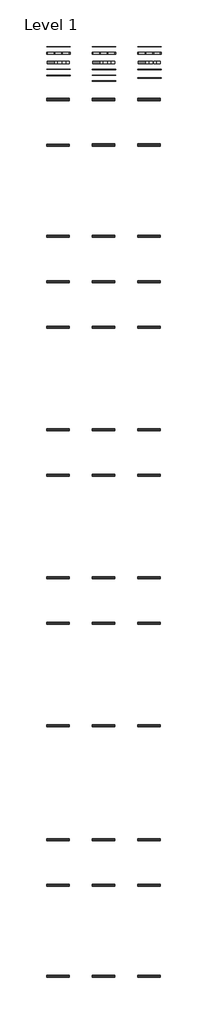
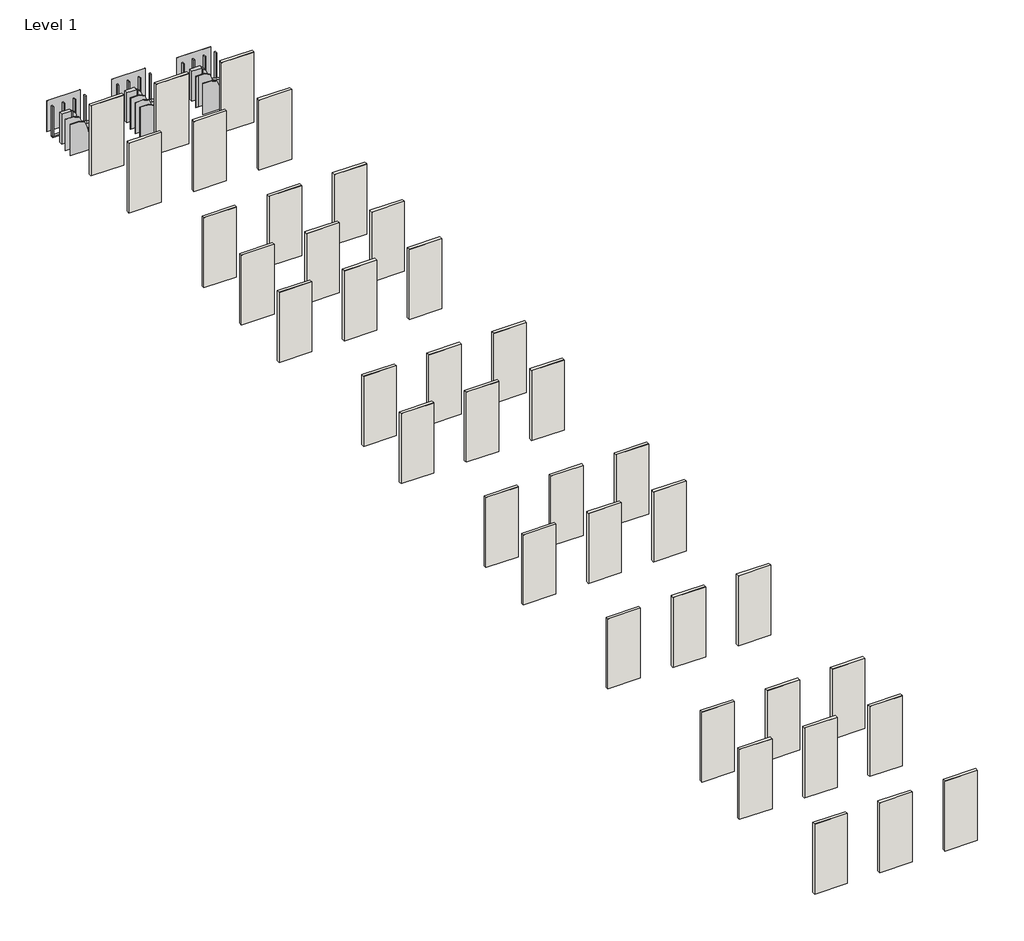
# One storey: 39 walls, 17 proxies.
"""IFC4 building model written with IfcOpenShell, lengths in millimetres."""

from ifc_helpers import new_model, si_unit, frame, origin, place, context, project, spatial, polyline, outline, extrude, transform, mapped, element, save
from components import drywall_drywall_9ad1a81a, insulation_insulation_886ea66a, insulation1_insulation_c7675874, insulation2_insulation_4921b148, siding_siding_018b6af7, siding1_siding_7341e546, wrb_wrb_ac3679c3, wrb1_wrb_f76ab0a9, wrb12_wrb_24edb861, wrb2_wrb_4205755c, wrb9_wrb_41caa409, wood_framing_wood_framing_a479036c, wood_framing1_wood_framing_6a745cfe, wood_framing2_wood_framing_f1f590b3

model = new_model("IFC4")

# Units and contexts
model_context = context("Model", 3, world=origin())
ifc_project = project(units=[si_unit("LENGTHUNIT", "METRE", prefix="MILLI")], contexts=[model_context])

# Site, building, storey
site = spatial("IfcSite", under=ifc_project)
building = spatial("IfcBuilding", under=site)
storey = spatial("IfcBuildingStorey", under=building, Name="Level 1", Elevation=0.0)

# Proxies
placement = place(None, origin())
drywall_drywall_shape = drywall_drywall_9ad1a81a(model_context)
element("IfcBuildingElementProxy", 1, Name="Drywall : Drywall", ObjectType="Drywall : Drywall", at=placement, inside=storey, context=model_context, shape_type="MappedRepresentation", body=[
    mapped(drywall_drywall_shape, transform((-5985.2651148, 30930.9655791, 0.0), x_axis=(1.0, 0.0, 0.0), y_axis=(0.0, 1.0, 0.0), z_axis=(0.0, 0.0, 1.0))),
])
element("IfcBuildingElementProxy", 2, Name="Drywall1 : Drywall", ObjectType="Drywall1 : Drywall", at=placement, inside=storey, context=model_context, shape_type="MappedRepresentation", body=[
    mapped(drywall_drywall_shape, transform((-3546.8651148, 30930.9655791, 0.0), x_axis=(1.0, 0.0, 0.0), y_axis=(0.0, 1.0, 0.0), z_axis=(0.0, 0.0, 1.0))),
])
element("IfcBuildingElementProxy", 3, Name="Drywall2 : Drywall", ObjectType="Drywall2 : Drywall", at=placement, inside=storey, context=model_context, shape_type="MappedRepresentation", body=[
    mapped(drywall_drywall_shape, transform((-1108.4651148, 30930.9655791, 0.0), x_axis=(1.0, 0.0, 0.0), y_axis=(0.0, 1.0, 0.0), z_axis=(0.0, 0.0, 1.0))),
])
insulation_insulation_shape = insulation_insulation_886ea66a(model_context)
element("IfcBuildingElementProxy", 4, Name="Insulation : Insulation", ObjectType="Insulation : Insulation", at=placement, inside=storey, context=model_context, shape_type="MappedRepresentation", body=[
    mapped(insulation_insulation_shape, transform((0.0, 0.0, 0.0), x_axis=(1.0, 0.0, 0.0), y_axis=(0.0, 1.0, 0.0), z_axis=(0.0, 0.0, 1.0))),
])
insulation1_insulation_shape = insulation1_insulation_c7675874(model_context)
element("IfcBuildingElementProxy", 5, Name="Insulation1 : Insulation", ObjectType="Insulation1 : Insulation", at=placement, inside=storey, context=model_context, shape_type="MappedRepresentation", body=[
    mapped(insulation1_insulation_shape, transform((0.0, 0.0, 0.0), x_axis=(1.0, 0.0, 0.0), y_axis=(0.0, 1.0, 0.0), z_axis=(0.0, 0.0, 1.0))),
])
insulation2_insulation_shape = insulation2_insulation_4921b148(model_context)
element("IfcBuildingElementProxy", 6, Name="Insulation2 : Insulation", ObjectType="Insulation2 : Insulation", at=placement, inside=storey, context=model_context, shape_type="MappedRepresentation", body=[
    mapped(insulation2_insulation_shape, transform((0.0, 0.0, 0.0), x_axis=(1.0, 0.0, 0.0), y_axis=(0.0, 1.0, 0.0), z_axis=(0.0, 0.0, 1.0))),
])
siding_siding_shape = siding_siding_018b6af7(model_context)
element("IfcBuildingElementProxy", 7, Name="Siding : Siding", ObjectType="Siding : Siding", at=placement, inside=storey, context=model_context, shape_type="MappedRepresentation", body=[
    mapped(siding_siding_shape, transform((0.0, 0.0, 0.0), x_axis=(1.0, 0.0, 0.0), y_axis=(0.0, 1.0, 0.0), z_axis=(0.0, 0.0, 1.0))),
])
siding1_siding_shape = siding1_siding_7341e546(model_context)
element("IfcBuildingElementProxy", 8, Name="Siding1 : Siding", ObjectType="Siding1 : Siding", at=placement, inside=storey, context=model_context, shape_type="MappedRepresentation", body=[
    mapped(siding1_siding_shape, transform((2438.4, 152.4, 0.0), x_axis=(1.0, 0.0, 0.0), y_axis=(0.0, 1.0, 0.0), z_axis=(0.0, 0.0, 1.0))),
])
element("IfcBuildingElementProxy", 9, Name="Siding2 : Siding", ObjectType="Siding2 : Siding", at=placement, inside=storey, context=model_context, shape_type="MappedRepresentation", body=[
    mapped(siding1_siding_shape, transform((0.0, 0.0, 0.0), x_axis=(1.0, 0.0, 0.0), y_axis=(0.0, 1.0, 0.0), z_axis=(0.0, 0.0, 1.0))),
])
wrb_wrb_shape = wrb_wrb_ac3679c3(model_context)
element("IfcBuildingElementProxy", 10, Name="WRB : WRB", ObjectType="WRB : WRB", at=placement, inside=storey, context=model_context, shape_type="MappedRepresentation", body=[
    mapped(wrb_wrb_shape, transform((-5985.2651148, 30930.9655791, 0.0), x_axis=(1.0, 0.0, 0.0), y_axis=(0.0, 1.0, 0.0), z_axis=(0.0, 0.0, 1.0))),
])
wrb1_wrb_shape = wrb1_wrb_f76ab0a9(model_context)
element("IfcBuildingElementProxy", 11, Name="WRB1 : WRB", ObjectType="WRB1 : WRB", at=placement, inside=storey, context=model_context, shape_type="MappedRepresentation", body=[
    mapped(wrb1_wrb_shape, transform((-5985.2651148, 30930.9655791, 0.0), x_axis=(1.0, 0.0, 0.0), y_axis=(0.0, 1.0, 0.0), z_axis=(0.0, 0.0, 1.0))),
])
wrb12_wrb_shape = wrb12_wrb_24edb861(model_context)
element("IfcBuildingElementProxy", 12, Name="WRB12 : WRB", ObjectType="WRB12 : WRB", at=placement, inside=storey, context=model_context, shape_type="MappedRepresentation", body=[
    mapped(wrb12_wrb_shape, transform((-5985.2651148, 30880.1655791, 0.0), x_axis=(1.0, 0.0, 0.0), y_axis=(0.0, 1.0, 0.0), z_axis=(0.0, 0.0, 1.0))),
])
wrb2_wrb_shape = wrb2_wrb_4205755c(model_context)
element("IfcBuildingElementProxy", 13, Name="WRB2 : WRB", ObjectType="WRB2 : WRB", at=placement, inside=storey, context=model_context, shape_type="MappedRepresentation", body=[
    mapped(wrb2_wrb_shape, transform((-5985.2651148, 30930.9655791, 0.0), x_axis=(1.0, 0.0, 0.0), y_axis=(0.0, 1.0, 0.0), z_axis=(0.0, 0.0, 1.0))),
])
wrb9_wrb_shape = wrb9_wrb_41caa409(model_context)
element("IfcBuildingElementProxy", 14, Name="WRB9 : WRB", ObjectType="WRB9 : WRB", at=placement, inside=storey, context=model_context, shape_type="MappedRepresentation", body=[
    mapped(wrb9_wrb_shape, transform((-5985.2651148, 30880.1655791, 0.0), x_axis=(1.0, 0.0, 0.0), y_axis=(0.0, 1.0, 0.0), z_axis=(0.0, 0.0, 1.0))),
])
wood_framing_wood_framing_shape = wood_framing_wood_framing_a479036c(model_context)
element("IfcBuildingElementProxy", 15, Name="Wood Framing : Wood Framing", ObjectType="Wood Framing : Wood Framing", at=placement, inside=storey, context=model_context, shape_type="MappedRepresentation", body=[
    mapped(wood_framing_wood_framing_shape, transform((0.0, 0.0, 0.0), x_axis=(1.0, 0.0, 0.0), y_axis=(0.0, 1.0, 0.0), z_axis=(0.0, 0.0, 1.0))),
])
wood_framing1_wood_framing_shape = wood_framing1_wood_framing_6a745cfe(model_context)
element("IfcBuildingElementProxy", 16, Name="Wood Framing1 : Wood Framing", ObjectType="Wood Framing1 : Wood Framing", at=placement, inside=storey, context=model_context, shape_type="MappedRepresentation", body=[
    mapped(wood_framing1_wood_framing_shape, transform((0.0, 0.0, 0.0), x_axis=(1.0, 0.0, 0.0), y_axis=(0.0, 1.0, 0.0), z_axis=(0.0, 0.0, 1.0))),
])
wood_framing2_wood_framing_shape = wood_framing2_wood_framing_f1f590b3(model_context)
element("IfcBuildingElementProxy", 17, Name="Wood Framing2 : Wood Framing", ObjectType="Wood Framing2 : Wood Framing", at=placement, inside=storey, context=model_context, shape_type="MappedRepresentation", body=[
    mapped(wood_framing2_wood_framing_shape, transform((0.0, 0.0, 0.0), x_axis=(1.0, 0.0, 0.0), y_axis=(0.0, 1.0, 0.0), z_axis=(0.0, 0.0, 1.0))),
])

# Walls
element("IfcWall", 18, ObjectType="Exterior - 2x4 Direct to Stud - LP SmartSide Panel Siding - 38 Series Cedar Texture Panel (Strand) - 8\" O.C.", at=placement, inside=storey, context=model_context, shape_type="SweptSolid", body=[
    extrude(outline(polyline([(32309.1411435, 0.0), (32309.1411435, 2771.775), (32317.1421435, 2771.775), (32418.7421435, 2771.775), (32418.7421435, 0.0), (32317.1421435, 0.0), (32309.1411435, 0.0)])), frame((-5100.4179718, 0.0, 0.0), z_axis=(1.0, 0.0, 0.0), x_axis=(0.0, 1.0, 0.0)), (0.0, 0.0, 1.0), 1219.2),
])
element("IfcWall", 19, ObjectType="Exterior - 2x4 w/WSP - LP SmartSide Panel Siding - 38 Series Cedar Texture Panel (Strand) - 8\" O.C.", at=placement, inside=storey, context=model_context, shape_type="SweptSolid", body=[
    extrude(outline(polyline([(32303.5848935, 0.0), (32303.5848935, 2771.775), (32311.5858935, 2771.775), (32424.2983935, 2771.775), (32424.2983935, 0.0), (32311.5858935, 0.0), (32303.5848935, 0.0)])), frame((-2662.0179718, 0.0, 0.0), z_axis=(1.0, 0.0, 0.0), x_axis=(0.0, 1.0, 0.0)), (0.0, 0.0, 1.0), 1219.2),
])
element("IfcWall", 20, ObjectType="Exterior - 2x4 Direct to Stud - LP SmartSide Panel Siding - 38 Series Cedar Texture Panel (Strand) - No Groove", at=placement, inside=storey, context=model_context, shape_type="SweptSolid", body=[
    extrude(outline(polyline([(29870.7411435, 0.0), (29870.7411435, 2771.775), (29878.7421435, 2771.775), (29980.3421435, 2771.775), (29980.3421435, 0.0), (29878.7421435, 0.0), (29870.7411435, 0.0)])), frame((-5100.4179718, 0.0, 0.0), z_axis=(1.0, 0.0, 0.0), x_axis=(0.0, 1.0, 0.0)), (0.0, 0.0, 1.0), 1219.2),
])
element("IfcWall", 21, ObjectType="Exterior - 2x4 w/WSP - LP SmartSide Panel Siding - 38 Series Cedar Texture Panel (Strand) - No Groove", at=placement, inside=storey, context=model_context, shape_type="SweptSolid", body=[
    extrude(outline(polyline([(29865.1848935, 0.0), (29865.1848935, 2771.775), (29873.1858935, 2771.775), (29985.8983935, 2771.775), (29985.8983935, 0.0), (29873.1858935, 0.0), (29865.1848935, 0.0)])), frame((-2662.0179718, 0.0, 0.0), z_axis=(1.0, 0.0, 0.0), x_axis=(0.0, 1.0, 0.0)), (0.0, 0.0, 1.0), 1219.2),
])
element("IfcWall", 22, ObjectType="Exterior - 2x4 Direct to Stud - LP SmartSide Panel Siding - 76 Series Cedar Texture Panel (Strand) - 4\" O.C.", at=placement, inside=storey, context=model_context, shape_type="SweptSolid", body=[
    extrude(outline(polyline([(24993.1791435, 0.0), (24993.1791435, 2771.775), (25002.7041435, 2771.775), (25104.3041435, 2771.775), (25104.3041435, 0.0), (25002.7041435, 0.0), (24993.1791435, 0.0)])), frame((-5100.4179718, 0.0, 0.0), z_axis=(1.0, 0.0, 0.0), x_axis=(0.0, 1.0, 0.0)), (0.0, 0.0, 1.0), 1219.2),
])
element("IfcWall", 23, ObjectType="Exterior - 2x4 w/WSP - LP SmartSide Panel Siding - 76 Series Cedar Texture Panel (Strand) - 4\" O.C.", at=placement, inside=storey, context=model_context, shape_type="SweptSolid", body=[
    extrude(outline(polyline([(24987.6228935, 0.0), (24987.6228935, 2771.775), (24997.1478935, 2771.775), (25109.8603935, 2771.775), (25109.8603935, 0.0), (24997.1478935, 0.0), (24987.6228935, 0.0)])), frame((-2662.0179718, 0.0, 0.0), z_axis=(1.0, 0.0, 0.0), x_axis=(0.0, 1.0, 0.0)), (0.0, 0.0, 1.0), 1219.2),
])
element("IfcWall", 24, ObjectType="Exterior - 2x4 Direct to Stud - LP SmartSide Panel Siding - 76 Series Cedar Texture Panel (Strand) - 8\" O.C.", at=placement, inside=storey, context=model_context, shape_type="SweptSolid", body=[
    extrude(outline(polyline([(22554.7791435, 0.0), (22554.7791435, 2771.775), (22564.3041435, 2771.775), (22665.9041435, 2771.775), (22665.9041435, 0.0), (22564.3041435, 0.0), (22554.7791435, 0.0)])), frame((-5100.4179718, 0.0, 0.0), z_axis=(1.0, 0.0, 0.0), x_axis=(0.0, 1.0, 0.0)), (0.0, 0.0, 1.0), 1219.2),
])
element("IfcWall", 25, ObjectType="Exterior - 2x4 w/WSP - LP SmartSide Panel Siding - 76 Series Cedar Texture Panel (Strand) - 8\" O.C.", at=placement, inside=storey, context=model_context, shape_type="SweptSolid", body=[
    extrude(outline(polyline([(22549.2228935, 0.0), (22549.2228935, 2771.775), (22558.7478935, 2771.775), (22671.4603935, 2771.775), (22671.4603935, 0.0), (22558.7478935, 0.0), (22549.2228935, 0.0)])), frame((-2662.0179718, 0.0, 0.0), z_axis=(1.0, 0.0, 0.0), x_axis=(0.0, 1.0, 0.0)), (0.0, 0.0, 1.0), 1219.2),
])
element("IfcWall", 26, ObjectType="Exterior - 2x4 Direct to Stud - LP SmartSide Panel Siding - 76 Series Cedar Texture Panel (Strand) - No Groove", at=placement, inside=storey, context=model_context, shape_type="SweptSolid", body=[
    extrude(outline(polyline([(20116.3791435, 0.0), (20116.3791435, 2771.775), (20125.9041435, 2771.775), (20227.5041435, 2771.775), (20227.5041435, 0.0), (20125.9041435, 0.0), (20116.3791435, 0.0)])), frame((-5100.4179718, 0.0, 0.0), z_axis=(1.0, 0.0, 0.0), x_axis=(0.0, 1.0, 0.0)), (0.0, 0.0, 1.0), 1219.2),
])
element("IfcWall", 27, ObjectType="Exterior - 2x4 w/WSP - LP SmartSide Panel Siding - 76 Series Cedar Texture Panel (Strand) - No Groove", at=placement, inside=storey, context=model_context, shape_type="SweptSolid", body=[
    extrude(outline(polyline([(20110.8228935, 0.0), (20110.8228935, 2771.775), (20120.3478935, 2771.775), (20233.0603935, 2771.775), (20233.0603935, 0.0), (20120.3478935, 0.0), (20110.8228935, 0.0)])), frame((-2662.0179718, 0.0, 0.0), z_axis=(1.0, 0.0, 0.0), x_axis=(0.0, 1.0, 0.0)), (0.0, 0.0, 1.0), 1219.2),
])
element("IfcWall", 28, ObjectType="Exterior - 2x4 Direct to Stud - LP SmartSide Panel Siding - 190 Series Cedar Texture Panel (Strand) - 8\" O.C.", at=placement, inside=storey, context=model_context, shape_type="SweptSolid", body=[
    extrude(outline(polyline([(14628.0106435, 0.0), (14628.0106435, 2771.775), (14641.4726435, 2771.775), (14743.0726435, 2771.775), (14743.0726435, 0.0), (14641.4726435, 0.0), (14628.0106435, 0.0)])), frame((-5100.4179718, 0.0, 0.0), z_axis=(1.0, 0.0, 0.0), x_axis=(0.0, 1.0, 0.0)), (0.0, 0.0, 1.0), 1219.2),
])
element("IfcWall", 29, ObjectType="Exterior - 2x4 w/WSP - LP SmartSide Panel Siding - 190 Series Cedar Texture Panel (Strand) - 8\" O.C.", at=placement, inside=storey, context=model_context, shape_type="SweptSolid", body=[
    extrude(outline(polyline([(14622.4543935, 0.0), (14622.4543935, 2771.775), (14635.9163935, 2771.775), (14748.6288935, 2771.775), (14748.6288935, 0.0), (14635.9163935, 0.0), (14622.4543935, 0.0)])), frame((-2662.0179718, 0.0, 0.0), z_axis=(1.0, 0.0, 0.0), x_axis=(0.0, 1.0, 0.0)), (0.0, 0.0, 1.0), 1219.2),
])
element("IfcWall", 30, ObjectType="Exterior - 2x4 Direct to Stud - LP SmartSide Panel Siding - 190 Series Cedar Texture Panel (Strand) - No Groove", at=placement, inside=storey, context=model_context, shape_type="SweptSolid", body=[
    extrude(outline(polyline([(12189.6106435, 0.0), (12189.6106435, 2771.775), (12203.0726435, 2771.775), (12304.6726435, 2771.775), (12304.6726435, 0.0), (12203.0726435, 0.0), (12189.6106435, 0.0)])), frame((-5100.4179718, 0.0, 0.0), z_axis=(1.0, 0.0, 0.0), x_axis=(0.0, 1.0, 0.0)), (0.0, 0.0, 1.0), 1219.2),
])
element("IfcWall", 31, ObjectType="Exterior - 2x4 w/WSP - LP SmartSide Panel Siding - 190 Series Cedar Texture Panel (Strand) - No Groove", at=placement, inside=storey, context=model_context, shape_type="SweptSolid", body=[
    extrude(outline(polyline([(12184.0543935, 0.0), (12184.0543935, 2771.775), (12197.5163935, 2771.775), (12310.2288935, 2771.775), (12310.2288935, 0.0), (12197.5163935, 0.0), (12184.0543935, 0.0)])), frame((-2662.0179718, 0.0, 0.0), z_axis=(1.0, 0.0, 0.0), x_axis=(0.0, 1.0, 0.0)), (0.0, 0.0, 1.0), 1219.2),
])
element("IfcWall", 32, ObjectType="Exterior - 2x4 Direct to Stud - LP SmartSide Panel Siding - 76 Series Cedar Texture Panel (Fiber) - 8\" O.C.", at=placement, inside=storey, context=model_context, shape_type="SweptSolid", body=[
    extrude(outline(polyline([(6705.1791435, 0.0), (6705.1791435, 2771.775), (6714.7041435, 2771.775), (6816.3041435, 2771.775), (6816.3041435, 0.0), (6714.7041435, 0.0), (6705.1791435, 0.0)])), frame((-5100.4179718, 0.0, 0.0), z_axis=(1.0, 0.0, 0.0), x_axis=(0.0, 1.0, 0.0)), (0.0, 0.0, 1.0), 1219.2),
])
element("IfcWall", 33, ObjectType="Exterior - 2x4 w/WSP - LP SmartSide Panel Siding - 76 Series Cedar Texture Panel (Fiber) - 8\" O.C.", at=placement, inside=storey, context=model_context, shape_type="SweptSolid", body=[
    extrude(outline(polyline([(6699.6228935, 0.0), (6699.6228935, 2771.775), (6709.1478935, 2771.775), (6821.8603935, 2771.775), (6821.8603935, 0.0), (6709.1478935, 0.0), (6699.6228935, 0.0)])), frame((-2662.0179718, 0.0, 0.0), z_axis=(1.0, 0.0, 0.0), x_axis=(0.0, 1.0, 0.0)), (0.0, 0.0, 1.0), 1219.2),
])
element("IfcWall", 34, ObjectType="Exterior - 2x4 Direct to Stud - LP SmartSide Panel Siding - 76 Series Cedar Texture Panel (Fiber) - Square Edge", at=placement, inside=storey, context=model_context, shape_type="SweptSolid", body=[
    extrude(outline(polyline([(4266.7791435, 0.0), (4266.7791435, 2771.775), (4276.3041435, 2771.775), (4377.9041435, 2771.775), (4377.9041435, 0.0), (4276.3041435, 0.0), (4266.7791435, 0.0)])), frame((-5100.4179718, 0.0, 0.0), z_axis=(1.0, 0.0, 0.0), x_axis=(0.0, 1.0, 0.0)), (0.0, 0.0, 1.0), 1219.2),
])
element("IfcWall", 35, ObjectType="Exterior - 2x4 w/WSP - LP SmartSide Panel Siding - 76 Series Cedar Texture Panel (Fiber) - Square Edge", at=placement, inside=storey, context=model_context, shape_type="SweptSolid", body=[
    extrude(outline(polyline([(4261.2228935, 0.0), (4261.2228935, 2771.775), (4270.7478935, 2771.775), (4383.4603935, 2771.775), (4383.4603935, 0.0), (4270.7478935, 0.0), (4261.2228935, 0.0)])), frame((-2662.0179718, 0.0, 0.0), z_axis=(1.0, 0.0, 0.0), x_axis=(0.0, 1.0, 0.0)), (0.0, 0.0, 1.0), 1219.2),
])
element("IfcWall", 36, ObjectType="Exterior - 2x4 Direct to Stud - LP SmartSide Panel Siding - Stucco Texture Panel (Fiber)", at=placement, inside=storey, context=model_context, shape_type="SweptSolid", body=[
    extrude(outline(polyline([(-1219.6208565, 0.0), (-1219.6208565, 2771.775), (-1210.0958565, 2771.775), (-1108.4958565, 2771.775), (-1108.4958565, 0.0), (-1210.0958565, 0.0), (-1219.6208565, 0.0)])), frame((-5100.4179718, 0.0, 0.0), z_axis=(1.0, 0.0, 0.0), x_axis=(0.0, 1.0, 0.0)), (0.0, 0.0, 1.0), 1219.2),
])
element("IfcWall", 37, ObjectType="Exterior - 2x4 w/WSP - LP SmartSide Panel Siding - Stucco Texture Panel (Fiber)", at=placement, inside=storey, context=model_context, shape_type="SweptSolid", body=[
    extrude(outline(polyline([(-1225.1771065, 0.0), (-1225.1771065, 2771.775), (-1215.6521065, 2771.775), (-1102.9396065, 2771.775), (-1102.9396065, 0.0), (-1215.6521065, 0.0), (-1225.1771065, 0.0)])), frame((-2662.0179718, 0.0, 0.0), z_axis=(1.0, 0.0, 0.0), x_axis=(0.0, 1.0, 0.0)), (0.0, 0.0, 1.0), 1219.2),
])
element("IfcWall", 38, ObjectType="Exterior - 2x4 Direct to Stud - LP SmartSide Panel Siding - 76 Series Smooth Finish Panel (Fiber) - 8\" O.C.", at=placement, inside=storey, context=model_context, shape_type="SweptSolid", body=[
    extrude(outline(polyline([(-7315.6208565, 0.0), (-7315.6208565, 2771.775), (-7306.0958565, 2771.775), (-7204.4958565, 2771.775), (-7204.4958565, 0.0), (-7306.0958565, 0.0), (-7315.6208565, 0.0)])), frame((-5100.4179718, 0.0, 0.0), z_axis=(1.0, 0.0, 0.0), x_axis=(0.0, 1.0, 0.0)), (0.0, 0.0, 1.0), 1219.2),
])
element("IfcWall", 39, ObjectType="Exterior - 2x4 w/WSP - LP SmartSide Panel Siding - 76 Series Smooth Finish Panel (Fiber) - 8\" O.C.", at=placement, inside=storey, context=model_context, shape_type="SweptSolid", body=[
    extrude(outline(polyline([(-7321.1771065, 0.0), (-7321.1771065, 2771.775), (-7311.6521065, 2771.775), (-7198.9396065, 2771.775), (-7198.9396065, 0.0), (-7311.6521065, 0.0), (-7321.1771065, 0.0)])), frame((-2662.0179718, 0.0, 0.0), z_axis=(1.0, 0.0, 0.0), x_axis=(0.0, 1.0, 0.0)), (0.0, 0.0, 1.0), 1219.2),
])
element("IfcWall", 40, ObjectType="Exterior - 2x4 Direct to Stud - LP SmartSide Panel Siding - 76 Series Smooth Finish Panel (Fiber) - Square Edge", at=placement, inside=storey, context=model_context, shape_type="SweptSolid", body=[
    extrude(outline(polyline([(-9754.0208565, 0.0), (-9754.0208565, 2771.775), (-9744.4958565, 2771.775), (-9642.8958565, 2771.775), (-9642.8958565, 0.0), (-9744.4958565, 0.0), (-9754.0208565, 0.0)])), frame((-5100.4179718, 0.0, 0.0), z_axis=(1.0, 0.0, 0.0), x_axis=(0.0, 1.0, 0.0)), (0.0, 0.0, 1.0), 1219.2),
])
element("IfcWall", 41, ObjectType="Exterior - 2x4 w/WSP - LP SmartSide Panel Siding - 76 Series Smooth Finish Panel (Fiber) - Square Edge", at=placement, inside=storey, context=model_context, shape_type="SweptSolid", body=[
    extrude(outline(polyline([(-9759.5771065, 0.0), (-9759.5771065, 2771.775), (-9750.0521065, 2771.775), (-9637.3396065, 2771.775), (-9637.3396065, 0.0), (-9750.0521065, 0.0), (-9759.5771065, 0.0)])), frame((-2662.0179718, 0.0, 0.0), z_axis=(1.0, 0.0, 0.0), x_axis=(0.0, 1.0, 0.0)), (0.0, 0.0, 1.0), 1219.2),
])
element("IfcWall", 42, ObjectType="Exterior - 2x4 Direct to Stud - LP SmartSide Panel Siding - Reverse Board & Batten Cedar Texture Panel (Fiber) - 12\" O.C.", at=placement, inside=storey, context=model_context, shape_type="SweptSolid", body=[
    extrude(outline(polyline([(-14630.8208565, 0.0), (-14630.8208565, 2771.775), (-14621.2958565, 2771.775), (-14519.6958565, 2771.775), (-14519.6958565, 0.0), (-14621.2958565, 0.0), (-14630.8208565, 0.0)])), frame((-5100.4179718, 0.0, 0.0), z_axis=(1.0, 0.0, 0.0), x_axis=(0.0, 1.0, 0.0)), (0.0, 0.0, 1.0), 1219.2),
])
element("IfcWall", 43, ObjectType="Exterior - 2x4 w/WSP - LP SmartSide Panel Siding - Reverse Board & Batten Cedar Texture Panel (Fiber) - 12\" O.C.", at=placement, inside=storey, context=model_context, shape_type="SweptSolid", body=[
    extrude(outline(polyline([(-14636.3771065, 0.0), (-14636.3771065, 2771.775), (-14626.8521065, 2771.775), (-14514.1396065, 2771.775), (-14514.1396065, 0.0), (-14626.8521065, 0.0), (-14636.3771065, 0.0)])), frame((-2662.0179718, 0.0, 0.0), z_axis=(1.0, 0.0, 0.0), x_axis=(0.0, 1.0, 0.0)), (0.0, 0.0, 1.0), 1219.2),
])
element("IfcWall", 44, ObjectType="Exterior - 2x4 w/WeatherLogic® - LP SmartSide Panel Siding - 38 Series Cedar Texture Panel (Strand) - 8\" O.C.", at=placement, inside=storey, context=model_context, shape_type="SweptSolid", body=[
    extrude(outline(polyline([(32303.5848935, 0.0), (32303.5848935, 2771.775), (32311.5858935, 2771.775), (32424.2983935, 2771.775), (32424.2983935, 0.0), (32311.5858935, 0.0), (32303.5848935, 0.0)])), frame((-223.6179718, 0.0, 0.0), z_axis=(1.0, 0.0, 0.0), x_axis=(0.0, 1.0, 0.0)), (0.0, 0.0, 1.0), 1219.2),
])
element("IfcWall", 45, ObjectType="Exterior - 2x4 w/WeatherLogic® - LP SmartSide Panel Siding - 38 Series Cedar Texture Panel (Strand) - No Groove", at=placement, inside=storey, context=model_context, shape_type="SweptSolid", body=[
    extrude(outline(polyline([(29865.1848935, 0.0), (29865.1848935, 2771.775), (29873.1858935, 2771.775), (29985.8983935, 2771.775), (29985.8983935, 0.0), (29873.1858935, 0.0), (29865.1848935, 0.0)])), frame((-223.6179718, 0.0, 0.0), z_axis=(1.0, 0.0, 0.0), x_axis=(0.0, 1.0, 0.0)), (0.0, 0.0, 1.0), 1219.2),
])
element("IfcWall", 46, ObjectType="Exterior - 2x4 w/WeatherLogic® - LP SmartSide Panel Siding - 76 Series Cedar Texture Panel (Strand) - 4\" O.C.", at=placement, inside=storey, context=model_context, shape_type="SweptSolid", body=[
    extrude(outline(polyline([(24987.6228935, 0.0), (24987.6228935, 2771.775), (24997.1478935, 2771.775), (25109.8603935, 2771.775), (25109.8603935, 0.0), (24997.1478935, 0.0), (24987.6228935, 0.0)])), frame((-223.6179718, 0.0, 0.0), z_axis=(1.0, 0.0, 0.0), x_axis=(0.0, 1.0, 0.0)), (0.0, 0.0, 1.0), 1219.2),
])
element("IfcWall", 47, ObjectType="Exterior - 2x4 w/WeatherLogic® - LP SmartSide Panel Siding - 76 Series Cedar Texture Panel (Strand) - 8\" O.C.", at=placement, inside=storey, context=model_context, shape_type="SweptSolid", body=[
    extrude(outline(polyline([(22549.2228935, 0.0), (22549.2228935, 2771.775), (22558.7478935, 2771.775), (22671.4603935, 2771.775), (22671.4603935, 0.0), (22558.7478935, 0.0), (22549.2228935, 0.0)])), frame((-223.6179718, 0.0, 0.0), z_axis=(1.0, 0.0, 0.0), x_axis=(0.0, 1.0, 0.0)), (0.0, 0.0, 1.0), 1219.2),
])
element("IfcWall", 48, ObjectType="Exterior - 2x4 w/WeatherLogic® - LP SmartSide Panel Siding - 76 Series Cedar Texture Panel (Strand) - No Groove", at=placement, inside=storey, context=model_context, shape_type="SweptSolid", body=[
    extrude(outline(polyline([(20110.8228935, 0.0), (20110.8228935, 2771.775), (20120.3478935, 2771.775), (20233.0603935, 2771.775), (20233.0603935, 0.0), (20120.3478935, 0.0), (20110.8228935, 0.0)])), frame((-223.6179718, 0.0, 0.0), z_axis=(1.0, 0.0, 0.0), x_axis=(0.0, 1.0, 0.0)), (0.0, 0.0, 1.0), 1219.2),
])
element("IfcWall", 49, ObjectType="Exterior - 2x4 w/WeatherLogic® - LP SmartSide Panel Siding - 190 Series Cedar Texture Panel (Strand) - 8\" O.C. 2", at=placement, inside=storey, context=model_context, shape_type="SweptSolid", body=[
    extrude(outline(polyline([(14622.4543935, 0.0), (14622.4543935, 2771.775), (14635.9163935, 2771.775), (14748.6288935, 2771.775), (14748.6288935, 0.0), (14635.9163935, 0.0), (14622.4543935, 0.0)])), frame((-223.6179718, 0.0, 0.0), z_axis=(1.0, 0.0, 0.0), x_axis=(0.0, 1.0, 0.0)), (0.0, 0.0, 1.0), 1219.2),
])
element("IfcWall", 50, ObjectType="Exterior - 2x4 w/WeatherLogic® - LP SmartSide Panel Siding - 190 Series Cedar Texture Panel (Strand) - No Groove", at=placement, inside=storey, context=model_context, shape_type="SweptSolid", body=[
    extrude(outline(polyline([(12184.0543935, 0.0), (12184.0543935, 2771.775), (12197.5163935, 2771.775), (12310.2288935, 2771.775), (12310.2288935, 0.0), (12197.5163935, 0.0), (12184.0543935, 0.0)])), frame((-223.6179718, 0.0, 0.0), z_axis=(1.0, 0.0, 0.0), x_axis=(0.0, 1.0, 0.0)), (0.0, 0.0, 1.0), 1219.2),
])
element("IfcWall", 51, ObjectType="Exterior - 2x4 w/WeatherLogic® - LP SmartSide Panel Siding - 76 Series Cedar Texture Panel (Fiber) - 8\" O.C.", at=placement, inside=storey, context=model_context, shape_type="SweptSolid", body=[
    extrude(outline(polyline([(6699.6228935, 0.0), (6699.6228935, 2771.775), (6709.1478935, 2771.775), (6821.8603935, 2771.775), (6821.8603935, 0.0), (6709.1478935, 0.0), (6699.6228935, 0.0)])), frame((-223.6179718, 0.0, 0.0), z_axis=(1.0, 0.0, 0.0), x_axis=(0.0, 1.0, 0.0)), (0.0, 0.0, 1.0), 1219.2),
])
element("IfcWall", 52, ObjectType="Exterior - 2x4 w/WeatherLogic® - LP SmartSide Panel Siding - 76 Series Cedar Texture Panel (Fiber) - Square Edge", at=placement, inside=storey, context=model_context, shape_type="SweptSolid", body=[
    extrude(outline(polyline([(4261.2228935, 0.0), (4261.2228935, 2771.775), (4270.7478935, 2771.775), (4383.4603935, 2771.775), (4383.4603935, 0.0), (4270.7478935, 0.0), (4261.2228935, 0.0)])), frame((-223.6179718, 0.0, 0.0), z_axis=(1.0, 0.0, 0.0), x_axis=(0.0, 1.0, 0.0)), (0.0, 0.0, 1.0), 1219.2),
])
element("IfcWall", 53, ObjectType="Exterior - 2x4 w/WeatherLogic® - LP SmartSide Panel Siding - Stucco Texture Panel (Fiber)", at=placement, inside=storey, context=model_context, shape_type="SweptSolid", body=[
    extrude(outline(polyline([(-1225.1771065, 0.0), (-1225.1771065, 2771.775), (-1215.6521065, 2771.775), (-1102.9396065, 2771.775), (-1102.9396065, 0.0), (-1215.6521065, 0.0), (-1225.1771065, 0.0)])), frame((-223.6179718, 0.0, 0.0), z_axis=(1.0, 0.0, 0.0), x_axis=(0.0, 1.0, 0.0)), (0.0, 0.0, 1.0), 1219.2),
])
element("IfcWall", 54, ObjectType="Exterior - 2x4 w/WeatherLogic® - LP SmartSide Panel Siding - 76 Series Smooth Finish Panel (Fiber) - 8\" O.C.", at=placement, inside=storey, context=model_context, shape_type="SweptSolid", body=[
    extrude(outline(polyline([(-7321.1771065, 0.0), (-7321.1771065, 2771.775), (-7311.6521065, 2771.775), (-7198.9396065, 2771.775), (-7198.9396065, 0.0), (-7311.6521065, 0.0), (-7321.1771065, 0.0)])), frame((-223.6179718, 0.0, 0.0), z_axis=(1.0, 0.0, 0.0), x_axis=(0.0, 1.0, 0.0)), (0.0, 0.0, 1.0), 1219.2),
])
element("IfcWall", 55, ObjectType="Exterior - 2x4 w/WeatherLogic® - LP SmartSide Panel Siding - 76 Series Smooth Finish Panel (Fiber) - Square Edge", at=placement, inside=storey, context=model_context, shape_type="SweptSolid", body=[
    extrude(outline(polyline([(-9759.5771065, 0.0), (-9759.5771065, 2771.775), (-9750.0521065, 2771.775), (-9637.3396065, 2771.775), (-9637.3396065, 0.0), (-9750.0521065, 0.0), (-9759.5771065, 0.0)])), frame((-223.6179718, 0.0, 0.0), z_axis=(1.0, 0.0, 0.0), x_axis=(0.0, 1.0, 0.0)), (0.0, 0.0, 1.0), 1219.2),
])
element("IfcWall", 56, ObjectType="Exterior - 2x4 w/WeatherLogic® - LP SmartSide Panel Siding - Reverse Board & Batten Cedar Texture Panel (Fiber) - 12\" O.C.", at=placement, inside=storey, context=model_context, shape_type="SweptSolid", body=[
    extrude(outline(polyline([(-14636.3771065, 0.0), (-14636.3771065, 2771.775), (-14626.8521065, 2771.775), (-14514.1396065, 2771.775), (-14514.1396065, 0.0), (-14626.8521065, 0.0), (-14636.3771065, 0.0)])), frame((-223.6179718, 0.0, 0.0), z_axis=(1.0, 0.0, 0.0), x_axis=(0.0, 1.0, 0.0)), (0.0, 0.0, 1.0), 1219.2),
])

save(model, "model.ifc")
